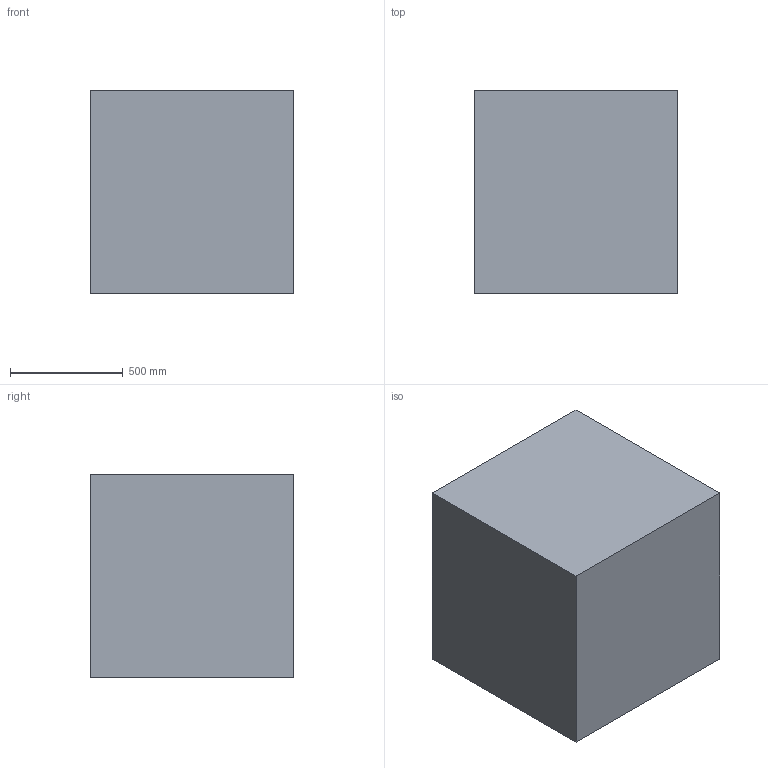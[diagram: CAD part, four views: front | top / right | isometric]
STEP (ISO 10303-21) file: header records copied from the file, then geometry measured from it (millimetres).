
FILE_DESCRIPTION (( 'STEP AP203' ), '1' );
FILE_NAME ('Riser Full.STEP', '2019-01-15T13:52:59', ( '' ), ( '' ), 'SwSTEP 2.0', 'SolidWorks 2019', '' );
FILE_SCHEMA (( 'CONFIG_CONTROL_DESIGN' ));
Length unit declared in the file: millimetre
Products named in the file (1): Riser Full
Bounding box: 900 x 900 x 900 mm (x, y, z)
Volume: 729000000 mm3; surface area: 4860000 mm2
Topology: 1 solids, 1 shells, 6 faces, 12 edges, 8 vertices
Faces by surface type: plane 6
Entity records: 233 total; most frequent: CARTESIAN_POINT 27, DIRECTION 26, ORIENTED_EDGE 24, LINE 12, VECTOR 12, EDGE_CURVE 12, VERTEX_POINT 8, PERSON_AND_ORGANIZATION 8
